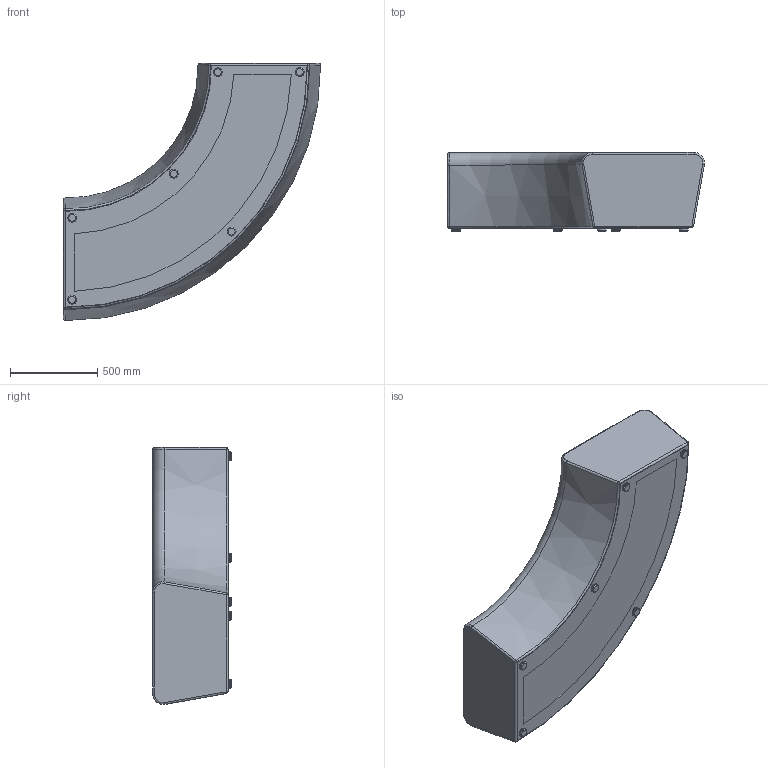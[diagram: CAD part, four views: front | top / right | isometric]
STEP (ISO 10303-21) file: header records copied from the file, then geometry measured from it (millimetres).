
FILE_DESCRIPTION(/* description */ (''),/* implementation_level */ '2;1');
FILE_NAME(/* name */ 'Opoho 90 Ottoman.step',/* time_stamp */ '2025-06-12T13:56:01+12:00',/* author */ (''),/* organization */ (''),/* preprocessor_version */ 'ST-DEVELOPER v20.1',/* originating_system */ 'Autodesk Translation Framework v14.10.0.0',/* authorisation */ '');
FILE_SCHEMA (('AUTOMOTIVE_DESIGN { 1 0 10303 214 3 1 1 }'));
Length unit declared in the file: millimetre
Products named in the file (18): Opoho 90 Ottoman; Frame; Seat; Seat Battens; Seat Battens Rear Group; Seat Battens Rear Section; Seat Battens Rear (1); Seat battens Front Group; Seat Battens Front Section; Seat Battens Front; Seat Sections; Seat Section Ends; Seat Sections (1); Seat Horizontal Bracing (1); Seat Horizontal Bracing; Base; MDF; Upholstery and Feet
Assembly tree (29 placements, depth 7):
  Opoho 90 Ottoman
    Frame
      Seat
        Seat Battens
          Seat Battens Rear Group
            Seat Battens Rear Section  x4
              Seat Battens Rear (1)
          Seat battens Front Group
            Seat Battens Front Section  x4
              Seat Battens Front
        Seat Sections
          Seat Section Ends  x2
          Seat Sections (1)  x3
        Seat Horizontal Bracing (1)
          Seat Horizontal Bracing
          Base
    MDF
    Upholstery and Feet
Bounding box: 1471.46 x 450 x 1471.46 mm (x, y, z)
Volume: 527483600.7 mm3; surface area: 8784107.2 mm2
Topology: 34 solids, 34 shells, 253 faces, 529 edges, 344 vertices
Faces by surface type: plane 190, cylinder 27, torus 17, bspline 10, sphere 6, cone 3
Full cylindrical faces by diameter (mm): 50 x6
Entity records: 4001 total; most frequent: CARTESIAN_POINT 1026, DIRECTION 623, ORIENTED_EDGE 470, AXIS2_PLACEMENT_3D 257, EDGE_CURVE 235, VERTEX_POINT 148, EDGE_LOOP 117, FACE_OUTER_BOUND 113
